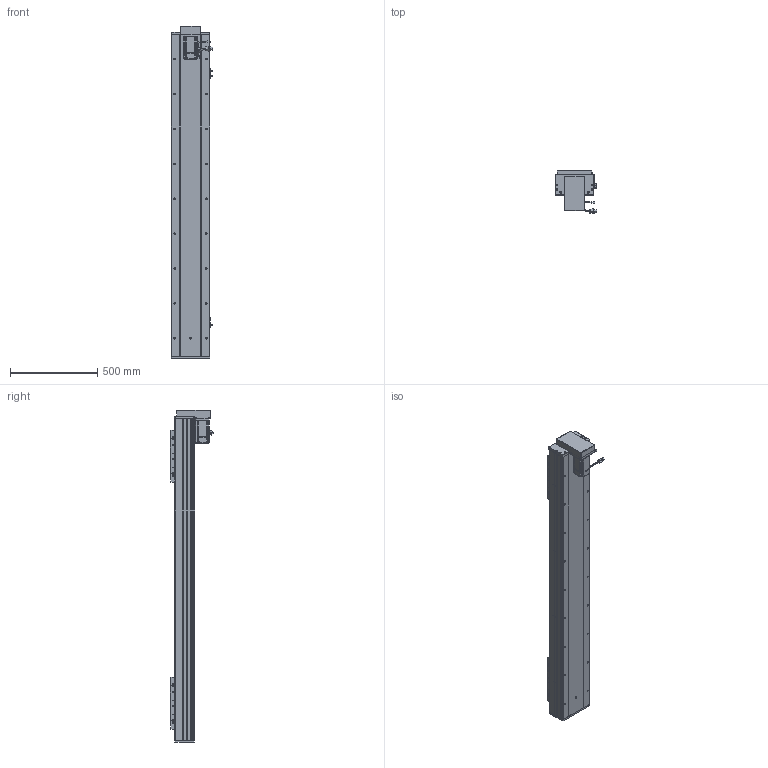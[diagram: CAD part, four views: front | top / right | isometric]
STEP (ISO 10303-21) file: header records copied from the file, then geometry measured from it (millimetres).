
FILE_DESCRIPTION (( 'STEP AP203' ), '1' );
FILE_NAME ('RY220F-L2525-800-BK-邧嶺.SLDASM_1400.step', '2022-08-06T08:08:08', ( '' ), ( '' ), 'SwSTEP 2.0', 'SolidWorks 2016', '' );
FILE_SCHEMA (( 'CONFIG_CONTROL_DESIGN' ));
Length unit declared in the file: millimetre
Products named in the file (15): RY220F臏賑釱25-32佪裝; RY220F蛌殏菁釱-800-邧嶺_1400; 怢湛750W_ECMA-CX0807ES; RY220F-祥凄詩湍-蛌殏-800_1400; RY220F-蛌殏奻裔啣-800_1400; RY220狟殏萇儂假蚾啣; 覜茼ん672; RY220F-詩湍揤踡輸; 侐源滅袉蝶; RY220F-滅鳥奻裔; RY220F-L2525-800-BK-邧嶺.SLDASM_1400; RY220狟殏萇儂欶; RY220F-672覜茼んえ; RY220F綴裔啣; 滅袉蝶18-24
Assembly tree (24 placements, depth 2):
  RY220F-L2525-800-BK-邧嶺.SLDASM_1400
    RY220F蛌殏菁釱-800-邧嶺_1400
    RY220F-蛌殏奻裔啣-800_1400  x2
    怢湛750W_ECMA-CX0807ES
    RY220F臏賑釱25-32佪裝  x2
    RY220F-滅鳥奻裔  x2
    滅袉蝶18-24  x3
    RY220F綴裔啣
    RY220F-祥凄詩湍-蛌殏-800_1400
    RY220F-詩湍揤踡輸  x2
    覜茼ん672  x3
    RY220F-672覜茼んえ  x2
    侐源滅袉蝶  x2
    RY220狟殏萇儂假蚾啣
    RY220狟殏萇儂欶
Bounding box: 237.27 x 247.24 x 1903 mm (x, y, z)
Volume: 17237779.1 mm3; surface area: 4502699.7 mm2
Topology: 25 solids, 25 shells, 2835 faces, 7694 edges, 4743 vertices
Faces by surface type: cylinder 1266, plane 1062, cone 436, bspline 45, sphere 16, torus 10
Entity records: 70413 total; most frequent: CARTESIAN_POINT 18945, ORIENTED_EDGE 10386, DIRECTION 10141, EDGE_CURVE 5193, AXIS2_PLACEMENT_3D 3606, VERTEX_POINT 3359, VECTOR 2929, LINE 2929
